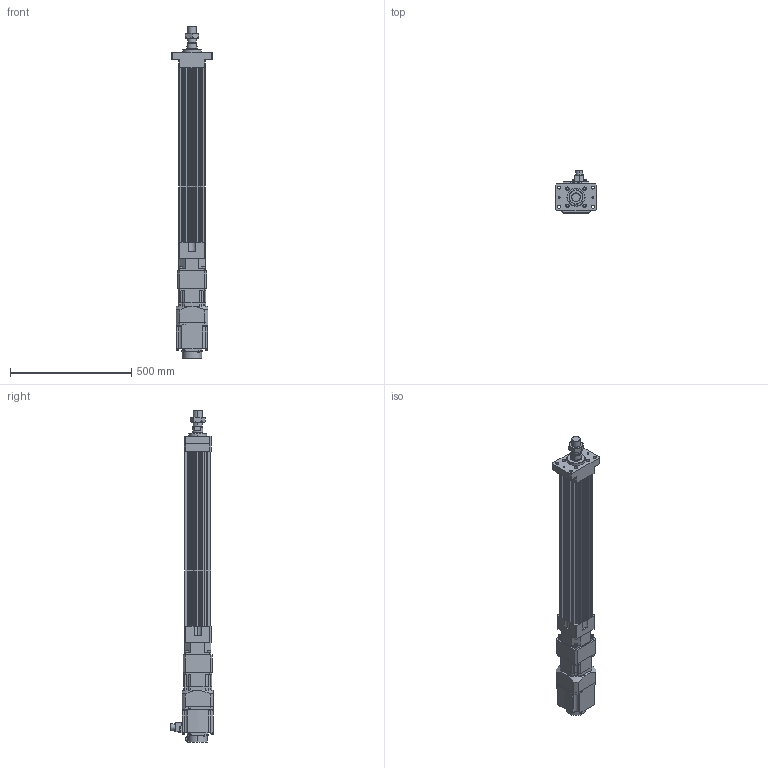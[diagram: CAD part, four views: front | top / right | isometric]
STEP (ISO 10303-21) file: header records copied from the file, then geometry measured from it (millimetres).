
FILE_DESCRIPTION (( 'STEP AP203' ), '1' );
FILE_NAME ('HES110NS(HS)-S550-W015G00-M-FM.STEP', '2023-01-28T06:45:38', ( 'tms' ), ( '' ), 'SwSTEP 2.0', 'SolidWorks 2013', '' );
FILE_SCHEMA (( 'CONFIG_CONTROL_DESIGN' ));
Length unit declared in the file: millimetre
Products named in the file (8): AB115-003[HG-SR152]; HES110-S550-G120-FM; HES110 ROD M ST550; AB1151; M36X1.5P; HG-SR152; P0401400706; HES110NS(HS)-S550-W015G00-M-FM
Assembly tree (7 placements, depth 3):
  HES110NS(HS)-S550-W015G00-M-FM
    HES110-S550-G120-FM
    HES110 ROD M ST550
    M36X1.5P
    AB115-003[HG-SR152]
      AB1151
      P0401400706
    HG-SR152
Bounding box: 170 x 177.49 x 1371.5 mm (x, y, z)
Volume: 8889481.7 mm3; surface area: 1248841.6 mm2
Topology: 4 solids, 15 shells, 1170 faces, 2958 edges, 1925 vertices
Faces by surface type: plane 559, cylinder 525, cone 74, bspline 8, torus 4
Entity records: 36974 total; most frequent: CARTESIAN_POINT 7028, DIRECTION 6389, ORIENTED_EDGE 5864, EDGE_CURVE 2942, AXIS2_PLACEMENT_3D 2346, VERTEX_POINT 1925, LINE 1697, VECTOR 1697
